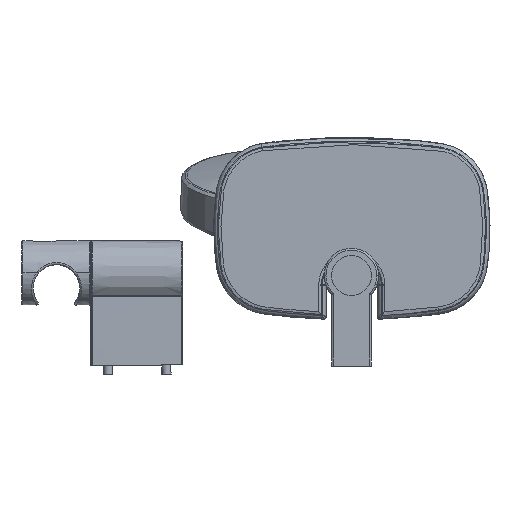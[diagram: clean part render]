
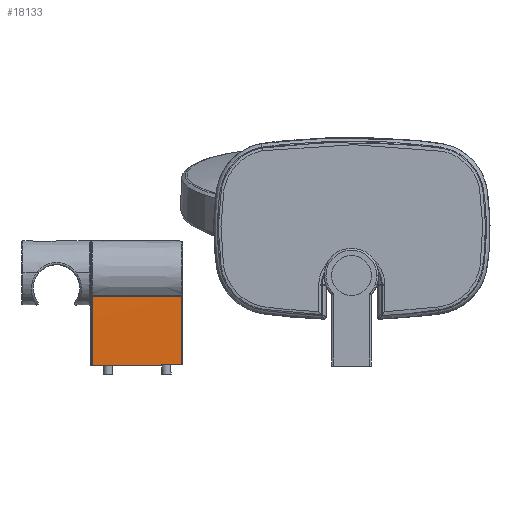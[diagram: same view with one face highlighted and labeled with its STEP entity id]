
A CAD part, front view. The second image highlights one B-rep face of the part: STEP entity #18133.
In plain terms, the highlighted spherical face has radius 2048.5 mm.
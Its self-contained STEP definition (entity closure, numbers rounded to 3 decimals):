
#1031 = CARTESIAN_POINT ( 'NONE',  ( -93.4, 37.543, -11.387 ) ) ;
#1329 = FACE_OUTER_BOUND ( 'NONE', #15400, .T. ) ;
#1427 = CARTESIAN_POINT ( 'NONE',  ( -142.499, 2085.441, -10.409 ) ) ;
#1940 = CARTESIAN_POINT ( 'NONE',  ( -142.73, 2085.441, -49.497 ) ) ;
#2103 = ORIENTED_EDGE ( 'NONE', *, *, #3026, .T. ) ;
#2467 = AXIS2_PLACEMENT_3D ( 'NONE', #1427, #14296, #3285 ) ;
#2981 = CARTESIAN_POINT ( 'NONE',  ( -142.499, 37.314, -49.495 ) ) ;
#3026 = EDGE_CURVE ( 'NONE', #9754, #14953, #16855, .T. ) ;
#3221 = CARTESIAN_POINT ( 'NONE',  ( -93.39, 37.55, -23.948 ) ) ;
#3285 = DIRECTION ( 'NONE',  ( 0., 0., 1. ) ) ;
#3647 = EDGE_CURVE ( 'NONE', #14953, #17543, #10655, .T. ) ;
#3767 = ORIENTED_EDGE ( 'NONE', *, *, #8219, .T. ) ;
#3796 = DIRECTION ( 'NONE',  ( -1., 0., -0.009 ) ) ;
#4887 = CARTESIAN_POINT ( 'NONE',  ( -126.136, 36.995, -11.232 ) ) ;
#5187 = AXIS2_PLACEMENT_3D ( 'NONE', #15033, #7689, #16990 ) ;
#6481 = CARTESIAN_POINT ( 'NONE',  ( -109.776, 37.195, -11.235 ) ) ;
#6516 = CIRCLE ( 'NONE', #7451, 2048.127 ) ;
#6571 = CARTESIAN_POINT ( 'NONE',  ( -93.409, 37.543, -11.387 ) ) ;
#6728 = CARTESIAN_POINT ( 'NONE',  ( -142.499, 36.941, -11.384 ) ) ;
#7240 = ORIENTED_EDGE ( 'NONE', *, *, #8522, .T. ) ;
#7451 = AXIS2_PLACEMENT_3D ( 'NONE', #1940, #14818, #3796 ) ;
#7471 = CARTESIAN_POINT ( 'NONE',  ( -142.499, 36.941, -11.384 ) ) ;
#7689 = DIRECTION ( 'NONE',  ( 0., 0., 1. ) ) ;
#8219 = EDGE_CURVE ( 'NONE', #18201, #15874, #10545, .T. ) ;
#8522 = EDGE_CURVE ( 'NONE', #15874, #9754, #21489, .T. ) ;
#9754 = VERTEX_POINT ( 'NONE', #19805 ) ;
#10191 = CARTESIAN_POINT ( 'NONE',  ( -93.39, 37.544, -11.387 ) ) ;
#10523 = SPHERICAL_SURFACE ( 'NONE', #5187, 2048.5 ) ;
#10545 = B_SPLINE_CURVE_WITH_KNOTS ( 'NONE', 3,
 ( #12309, #21609, #3221, #16102 ),
 .UNSPECIFIED., .F., .F.,
 ( 4, 4 ),
 ( 0.67, 0.707 ),
 .UNSPECIFIED. ) ;
#10655 = CIRCLE ( 'NONE', #2467, 2048.5 ) ;
#11433 = CARTESIAN_POINT ( 'NONE',  ( -93.39, 37.544, -11.387 ) ) ;
#12309 = CARTESIAN_POINT ( 'NONE',  ( -93.381, 37.909, -49.066 ) ) ;
#14064 = CARTESIAN_POINT ( 'NONE',  ( -101.597, 37.345, -11.289 ) ) ;
#14296 = DIRECTION ( 'NONE',  ( 1., 0., 0. ) ) ;
#14818 = DIRECTION ( 'NONE',  ( -0.009, 0., 1. ) ) ;
#14926 = EDGE_CURVE ( 'NONE', #17543, #18201, #6516, .T. ) ;
#14953 = VERTEX_POINT ( 'NONE', #7471 ) ;
#15033 = CARTESIAN_POINT ( 'NONE',  ( -143.071, 2085.441, -10.409 ) ) ;
#15400 = EDGE_LOOP ( 'NONE', ( #22653, #18803, #3767, #7240, #2103 ) ) ;
#15874 = VERTEX_POINT ( 'NONE', #11433 ) ;
#15932 = CARTESIAN_POINT ( 'NONE',  ( -93.419, 37.543, -11.387 ) ) ;
#16102 = CARTESIAN_POINT ( 'NONE',  ( -93.39, 37.544, -11.387 ) ) ;
#16855 = B_SPLINE_CURVE_WITH_KNOTS ( 'NONE', 3,
 ( #15932, #14064, #6481, #4887, #17798, #6728 ),
 .UNSPECIFIED., .F., .F.,
 ( 4, 2, 4 ),
 ( 0.008, 0.032, 0.057 ),
 .UNSPECIFIED. ) ;
#16990 = DIRECTION ( 'NONE',  ( -1., 0., 0. ) ) ;
#17543 = VERTEX_POINT ( 'NONE', #2981 ) ;
#17798 = CARTESIAN_POINT ( 'NONE',  ( -134.318, 36.943, -11.282 ) ) ;
#18133 = ADVANCED_FACE ( 'NONE', ( #1329 ), #10523, .T. ) ;
#18201 = VERTEX_POINT ( 'NONE', #18854 ) ;
#18803 = ORIENTED_EDGE ( 'NONE', *, *, #14926, .T. ) ;
#18854 = CARTESIAN_POINT ( 'NONE',  ( -93.381, 37.909, -49.066 ) ) ;
#19514 = CARTESIAN_POINT ( 'NONE',  ( -93.419, 37.543, -11.387 ) ) ;
#19805 = CARTESIAN_POINT ( 'NONE',  ( -93.419, 37.543, -11.387 ) ) ;
#21489 = B_SPLINE_CURVE_WITH_KNOTS ( 'NONE', 3,
 ( #10191, #1031, #6571, #19514 ),
 .UNSPECIFIED., .F., .F.,
 ( 4, 4 ),
 ( 0.005, 0.005 ),
 .UNSPECIFIED. ) ;
#21609 = CARTESIAN_POINT ( 'NONE',  ( -93.387, 37.671, -36.508 ) ) ;
#22653 = ORIENTED_EDGE ( 'NONE', *, *, #3647, .T. ) ;
